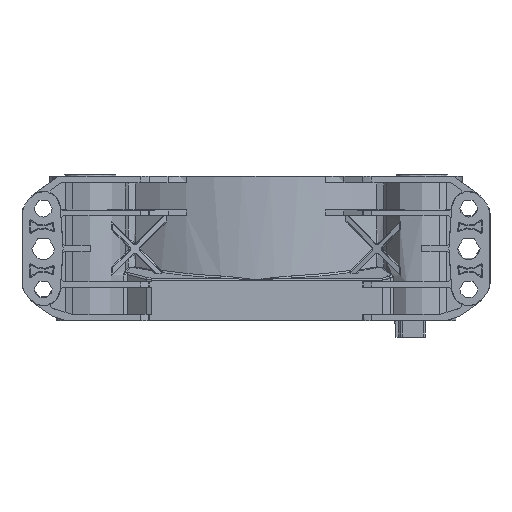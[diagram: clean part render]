
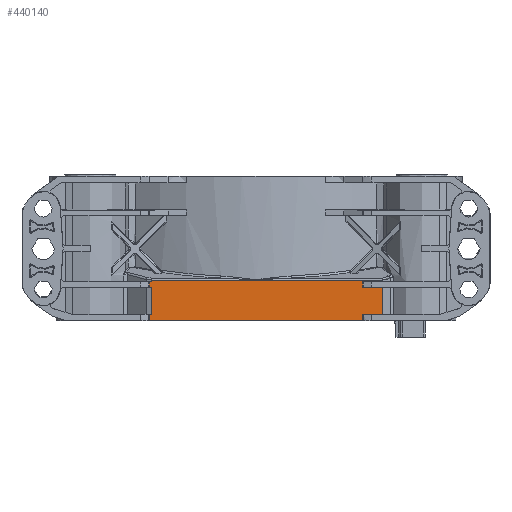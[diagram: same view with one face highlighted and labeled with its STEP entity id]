
A CAD part, front view. The second image highlights one B-rep face of the part: STEP entity #440140.
In plain terms, the highlighted planar face has unit normal (0, -1, 0) as drawn and (0.028, -1, 0) by its records, which use the part's own axes.
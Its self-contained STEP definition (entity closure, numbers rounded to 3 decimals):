
#125150=CARTESIAN_POINT('',(-16.163,-149.146,
-424.33));
#125160=VERTEX_POINT('',#125150);
#125210=CARTESIAN_POINT('',(0.,-148.693,-424.33));
#125220=DIRECTION('',(1.,0.028,
0.));
#125230=VECTOR('',#125220,1.);
#125240=LINE('',#125210,#125230);
#125250=CARTESIAN_POINT('',(-16.621,-149.158,
-424.33));
#125260=VERTEX_POINT('',#125250);
#125270=EDGE_CURVE('',#125260,#125160,#125240,.T.);
#226760=CARTESIAN_POINT('',(-16.621,-149.158,
-431.98));
#226770=VERTEX_POINT('',#226760);
#226800=CARTESIAN_POINT('',(-16.621,-149.158,
-431.98));
#226810=DIRECTION('',(0.,0.,-1.));
#226820=VECTOR('',#226810,1.);
#226830=LINE('',#226800,#226820);
#226840=CARTESIAN_POINT('',(-16.621,-149.158,
-433.484));
#226850=VERTEX_POINT('',#226840);
#226860=EDGE_CURVE('',#226770,#226850,#226830,.T.);
#259510=CARTESIAN_POINT('',(-16.163,-149.146,
-431.98));
#259520=VERTEX_POINT('',#259510);
#259570=CARTESIAN_POINT('',(0.,-148.693,-431.98));
#259580=DIRECTION('',(1.,0.028,
0.));
#259590=VECTOR('',#259580,1.);
#259600=LINE('',#259570,#259590);
#259610=EDGE_CURVE('',#226770,#259520,#259600,.T.);
#306340=CARTESIAN_POINT('',(-16.621,-149.158,
-425.538));
#306350=VERTEX_POINT('',#306340);
#306380=CARTESIAN_POINT('',(0.,-148.693,-425.538));
#306390=DIRECTION('',(1.,0.028,
0.));
#306400=VECTOR('',#306390,1.);
#306410=LINE('',#306380,#306400);
#306420=CARTESIAN_POINT('',(-16.163,-149.146,
-425.538));
#306430=VERTEX_POINT('',#306420);
#306440=EDGE_CURVE('',#306350,#306430,#306410,.T.);
#338530=CARTESIAN_POINT('',(-16.621,-149.158,
-425.538));
#338540=DIRECTION('',(0.,0.,1.));
#338550=VECTOR('',#338540,1.);
#338560=LINE('',#338530,#338550);
#338570=EDGE_CURVE('',#306350,#125260,#338560,.T.);
#352970=CARTESIAN_POINT('',(33.519,-147.755,
-425.538));
#352980=VERTEX_POINT('',#352970);
#353010=CARTESIAN_POINT('',(33.519,-147.755,
-425.538));
#353020=DIRECTION('',(0.,0.,1.));
#353030=VECTOR('',#353020,1.);
#353040=LINE('',#353010,#353030);
#353050=CARTESIAN_POINT('',(33.519,-147.755,
-424.33));
#353060=VERTEX_POINT('',#353050);
#353070=EDGE_CURVE('',#352980,#353060,#353040,.T.);
#382560=CARTESIAN_POINT('',(-16.163,-149.146,
-423.889));
#382570=VERTEX_POINT('',#382560);
#384270=CARTESIAN_POINT('',(-16.163,-149.146,
-423.889));
#384280=DIRECTION('',(0.,0.,-1.));
#384290=VECTOR('',#384280,1.);
#384300=LINE('',#384270,#384290);
#384310=EDGE_CURVE('',#382570,#125160,#384300,.T.);
#439340=CARTESIAN_POINT('',(-17.992,-149.197,
-433.724));
#439350=DIRECTION('',(0.028,-1.,0.));
#439360=DIRECTION('',(-1.,-0.028,0.));
#439370=AXIS2_PLACEMENT_3D('',#439340,#439350,#439360);
#439380=PLANE('',#439370);
#439390=ORIENTED_EDGE('',*,*,#226860,.T.);
#439400=ORIENTED_EDGE('',*,*,#259610,.F.);
#439410=CARTESIAN_POINT('',(-16.163,-149.146,
-431.98));
#439420=DIRECTION('',(0.,0.,1.));
#439430=VECTOR('',#439420,1.);
#439440=LINE('',#439410,#439430);
#439450=EDGE_CURVE('',#259520,#306430,#439440,.T.);
#439460=ORIENTED_EDGE('',*,*,#439450,.F.);
#439470=ORIENTED_EDGE('',*,*,#306440,.T.);
#439480=ORIENTED_EDGE('',*,*,#338570,.F.);
#439490=ORIENTED_EDGE('',*,*,#125270,.F.);
#439500=ORIENTED_EDGE('',*,*,#384310,.T.);
#439510=CARTESIAN_POINT('',(38.235,-147.623,
-423.889));
#439520=DIRECTION('',(-1.,-0.028,0.));
#439530=VECTOR('',#439520,1.);
#439540=LINE('',#439510,#439530);
#439550=CARTESIAN_POINT('',(38.235,-147.623,
-423.889));
#439560=VERTEX_POINT('',#439550);
#439570=EDGE_CURVE('',#439560,#382570,#439540,.T.);
#439580=ORIENTED_EDGE('',*,*,#439570,.T.);
#439590=CARTESIAN_POINT('',(38.235,-147.623,
-424.33));
#439600=DIRECTION('',(0.,0.,1.));
#439610=VECTOR('',#439600,1.);
#439620=LINE('',#439590,#439610);
#439630=CARTESIAN_POINT('',(38.235,-147.623,
-424.33));
#439640=VERTEX_POINT('',#439630);
#439650=EDGE_CURVE('',#439640,#439560,#439620,.T.);
#439660=ORIENTED_EDGE('',*,*,#439650,.T.);
#439670=CARTESIAN_POINT('',(0.,-148.693,-424.33));
#439680=DIRECTION('',(-1.,-0.028,
0.));
#439690=VECTOR('',#439680,1.);
#439700=LINE('',#439670,#439690);
#439710=EDGE_CURVE('',#439640,#353060,#439700,.T.);
#439720=ORIENTED_EDGE('',*,*,#439710,.F.);
#439730=ORIENTED_EDGE('',*,*,#353070,.T.);
#439740=CARTESIAN_POINT('',(0.,-148.693,-425.538));
#439750=DIRECTION('',(-1.,-0.028,
0.));
#439760=VECTOR('',#439750,1.);
#439770=LINE('',#439740,#439760);
#439780=CARTESIAN_POINT('',(38.235,-147.623,
-425.538));
#439790=VERTEX_POINT('',#439780);
#439800=EDGE_CURVE('',#439790,#352980,#439770,.T.);
#439810=ORIENTED_EDGE('',*,*,#439800,.T.);
#439820=CARTESIAN_POINT('',(38.235,-147.623,
-431.98));
#439830=DIRECTION('',(0.,0.,1.));
#439840=VECTOR('',#439830,1.);
#439850=LINE('',#439820,#439840);
#439860=CARTESIAN_POINT('',(38.235,-147.623,
-431.98));
#439870=VERTEX_POINT('',#439860);
#439880=EDGE_CURVE('',#439870,#439790,#439850,.T.);
#439890=ORIENTED_EDGE('',*,*,#439880,.T.);
#439900=CARTESIAN_POINT('',(0.,-148.693,-431.98));
#439910=DIRECTION('',(-1.,-0.028,
0.));
#439920=VECTOR('',#439910,1.);
#439930=LINE('',#439900,#439920);
#439940=CARTESIAN_POINT('',(33.519,-147.755,
-431.98));
#439950=VERTEX_POINT('',#439940);
#439960=EDGE_CURVE('',#439870,#439950,#439930,.T.);
#439970=ORIENTED_EDGE('',*,*,#439960,.F.);
#439980=CARTESIAN_POINT('',(33.519,-147.755,
-431.98));
#439990=DIRECTION('',(0.,0.,-1.));
#440000=VECTOR('',#439990,1.);
#440010=LINE('',#439980,#440000);
#440020=CARTESIAN_POINT('',(33.519,-147.755,
-433.484));
#440030=VERTEX_POINT('',#440020);
#440040=EDGE_CURVE('',#439950,#440030,#440010,.T.);
#440050=ORIENTED_EDGE('',*,*,#440040,.F.);
#440060=CARTESIAN_POINT('',(0.,-148.693,-433.484));
#440070=DIRECTION('',(-1.,-0.028,0.));
#440080=VECTOR('',#440070,1.);
#440090=LINE('',#440060,#440080);
#440100=EDGE_CURVE('',#440030,#226850,#440090,.T.);
#440110=ORIENTED_EDGE('',*,*,#440100,.F.);
#440120=EDGE_LOOP('',(#440110,#440050,#439970,#439890,#439810,#439730,
#439720,#439660,#439580,#439500,#439490,#439480,#439470,#439460,#439400,
#439390));
#440130=FACE_OUTER_BOUND('',#440120,.T.);
#440140=ADVANCED_FACE('',(#440130),#439380,.T.);
